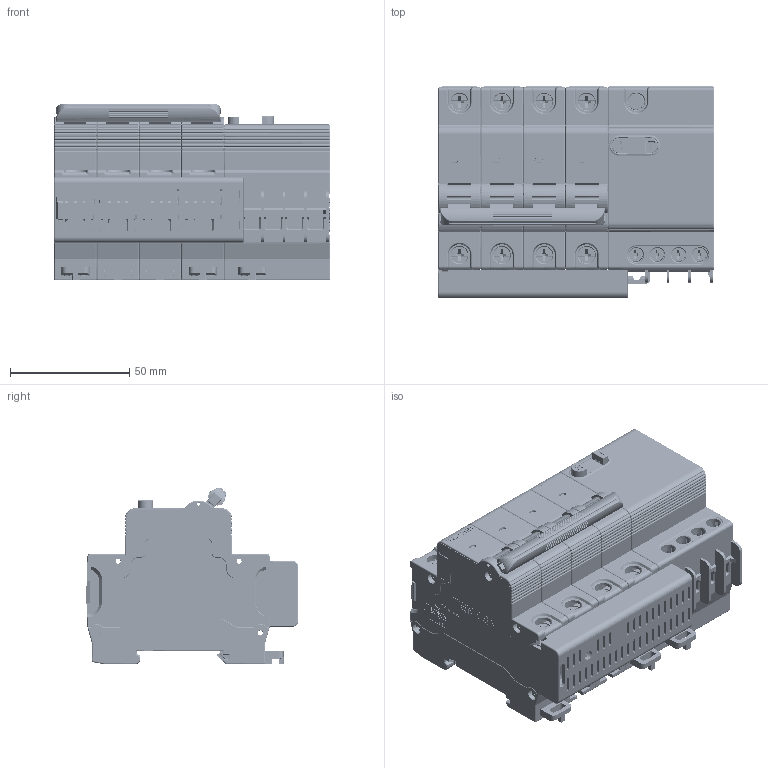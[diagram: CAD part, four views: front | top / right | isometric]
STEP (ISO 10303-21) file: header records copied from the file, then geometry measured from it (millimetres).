
FILE_DESCRIPTION (( 'STEP AP214' ), '1' );
FILE_NAME ('TGB1NLE-32 4P.STEP', '2025-12-12T13:05:15', ( '' ), ( '' ), 'SwSTEP 2.0', 'SolidWorks 2024', '' );
FILE_SCHEMA (( 'AUTOMOTIVE_DESIGN' ));
Length unit declared in the file: millimetre
Products named in the file (16): 2TZD_259_1180_SW0001_13.stp; 2TZD_259_1180_SW0001_12.stp; 2TZD_259_1180_SW0001_11.stp; 2TZD_259_1180_SW0001_7.stp; 2TZD_259_1180_SW0001_2.stp; TGB1NLE-32 4P.stp; TGB1NLE-32 4P; 2TZD_259_1180_SW0001_8.stp; 2TZD_259_1180_SW0001_5.stp; 2TZD_259_1180_SW0001_14.stp; 2TZD_259_1180_SW0001_1.stp; 2TZD_259_1180_SW0001_3.stp; 2TZD_259_1180_SW0001_4.stp; 2TZD_259_1180_SW0001_10.stp; 2TZD_259_1180_SW0001_6.stp; 2TZD_259_1180_SW0001_9.stp
Assembly tree (15 placements, depth 3):
  TGB1NLE-32 4P
    TGB1NLE-32 4P.stp
      2TZD_259_1180_SW0001_1.stp
      2TZD_259_1180_SW0001_2.stp
      2TZD_259_1180_SW0001_3.stp
      2TZD_259_1180_SW0001_4.stp
      2TZD_259_1180_SW0001_5.stp
      2TZD_259_1180_SW0001_6.stp
      2TZD_259_1180_SW0001_7.stp
      2TZD_259_1180_SW0001_8.stp
      2TZD_259_1180_SW0001_9.stp
      2TZD_259_1180_SW0001_10.stp
      2TZD_259_1180_SW0001_11.stp
      2TZD_259_1180_SW0001_12.stp
      2TZD_259_1180_SW0001_13.stp
      2TZD_259_1180_SW0001_14.stp
Bounding box: 115.9 x 89.4 x 74.22 mm (x, y, z)
Volume: 480387.1 mm3; surface area: 252353.9 mm2
Topology: 14 solids, 14 shells, 18383 faces, 50111 edges, 32002 vertices
Faces by surface type: plane 11513, cylinder 4204, torus 1027, bspline 826, cone 680, sphere 133
Entity records: 657436 total; most frequent: CARTESIAN_POINT 225217, ORIENTED_EDGE 99922, DIRECTION 75323, EDGE_CURVE 49961, VERTEX_POINT 31966, AXIS2_PLACEMENT_3D 25200, VECTOR 24923, LINE 24923
